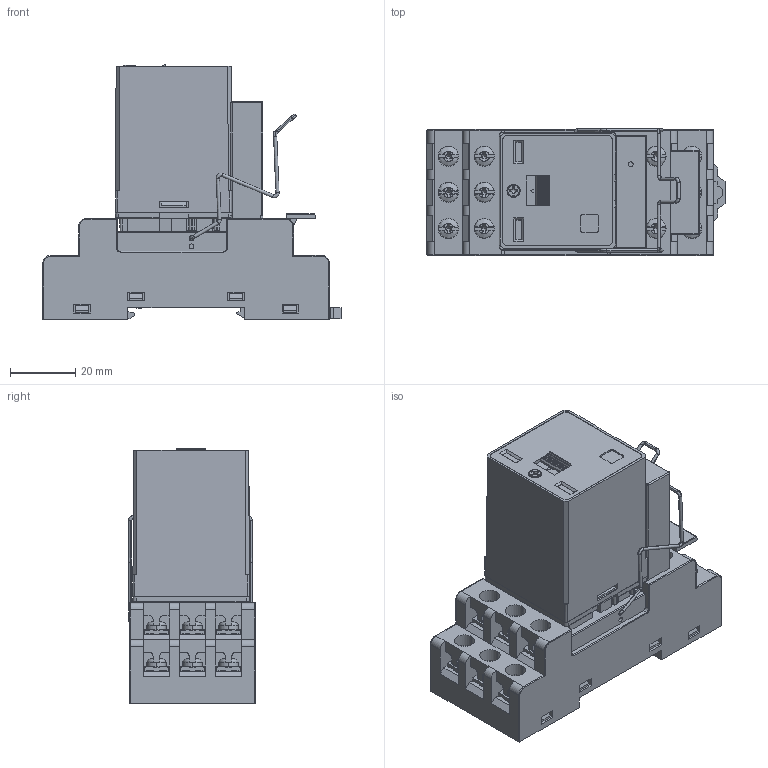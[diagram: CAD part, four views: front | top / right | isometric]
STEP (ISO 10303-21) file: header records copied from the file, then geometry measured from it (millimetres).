
FILE_DESCRIPTION (( 'STEP AP214' ), '1' );
FILE_NAME ('10. IR-3CO_IR-B3-SC_IR-RB-3_IR-MP-2_IR-FM-BM+ñêîáà.STEP', '2023-06-08T10:23:08', ( '' ), ( '' ), 'SwSTEP 2.0', 'SolidWorks 2022', '' );
FILE_SCHEMA (( 'AUTOMOTIVE_DESIGN' ));
Length unit declared in the file: millimetre
Products named in the file (6): IR-3CO; IR-B3-SC; IR-MP-2 (DKC); IR-FM-BM; скоба; 10. IR-3CO_IR-B3-SC_IR-RB-3_IR-MP-2_IR-FM-BM+скоба
Assembly tree (5 placements, depth 2):
  10. IR-3CO_IR-B3-SC_IR-RB-3_IR-MP-2_IR-FM-BM+скоба
    IR-B3-SC
    IR-3CO
    IR-MP-2 (DKC)
    скоба
    IR-FM-BM
Bounding box: 91.6 x 38.95 x 78.4 mm (x, y, z)
Volume: 148035.3 mm3; surface area: 44230.1 mm2
Topology: 5 solids, 22 shells, 2712 faces, 7403 edges, 4788 vertices
Faces by surface type: plane 1918, cylinder 421, bspline 211, cone 134, torus 28
Entity records: 103725 total; most frequent: CARTESIAN_POINT 37233, ORIENTED_EDGE 14746, DIRECTION 12266, EDGE_CURVE 7373, LINE 5210, VECTOR 5210, VERTEX_POINT 4788, AXIS2_PLACEMENT_3D 3528
